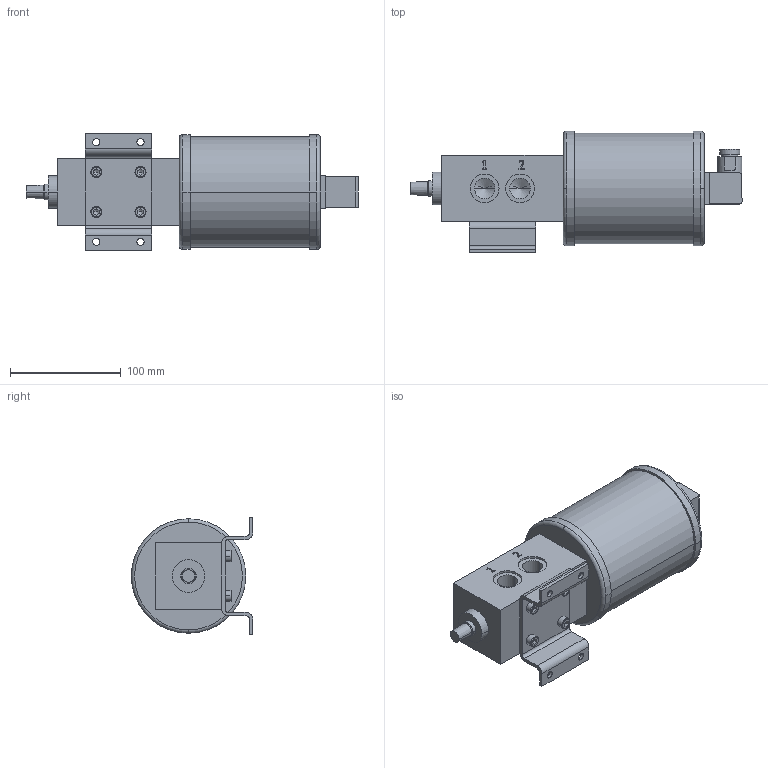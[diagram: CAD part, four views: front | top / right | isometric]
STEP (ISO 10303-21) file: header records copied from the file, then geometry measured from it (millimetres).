
FILE_DESCRIPTION((''),'2;1');
FILE_NAME('5057009&5057011_3D.stp','2017-05-30T17:41:27',(''),(''),'Mechanical Desktop 2008','Mechanical Desktop 2008',', , ');
FILE_SCHEMA(('AUTOMOTIVE_DESIGN { 1 2 10303 214 1 1 1 1 }'));
Length unit declared in the file: millimetre
Products named in the file (5): 5057009_3D; PART1; CONNETTORE; ~PART1; CYLINDER HEAD CAP SCREW - UNI 5931 - M 6 X  16
Assembly tree (7 placements, depth 2):
  5057009_3D
    PART1
    CONNETTORE
    ~PART1
    CYLINDER HEAD CAP SCREW - UNI 5931 - M 6 X  16  x4
Bounding box: 300.22 x 109.75 x 106 mm (x, y, z)
Volume: 1434333.3 mm3; surface area: 125835.2 mm2
Topology: 7 solids, 7 shells, 479 faces, 1242 edges, 802 vertices
Faces by surface type: plane 209, cylinder 114, bspline 104, cone 48, torus 4
Entity records: 13191 total; most frequent: CARTESIAN_POINT 3574, ORIENTED_EDGE 2094, DIRECTION 1695, EDGE_CURVE 1047, VERTEX_POINT 694, VECTOR 621, LINE 621, AXIS2_PLACEMENT_3D 537
